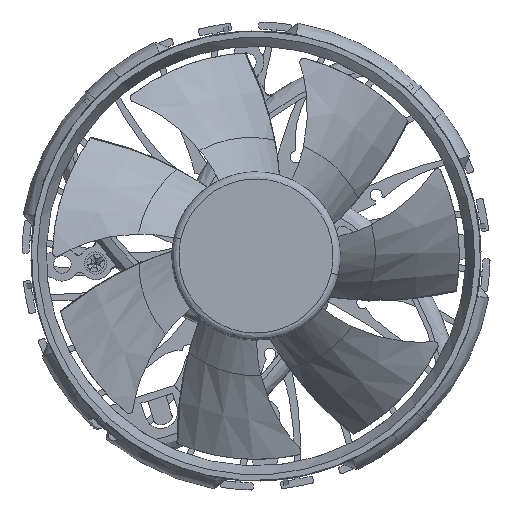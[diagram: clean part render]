
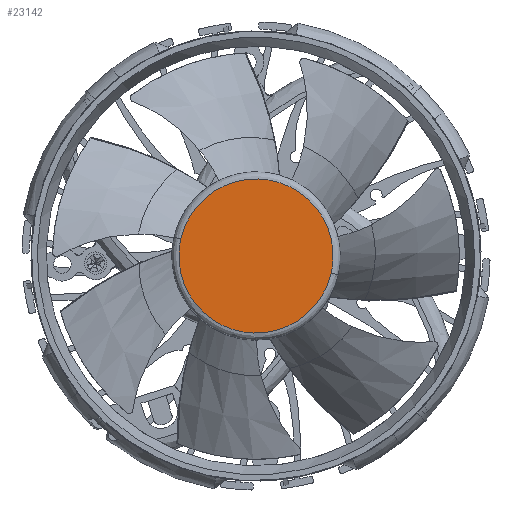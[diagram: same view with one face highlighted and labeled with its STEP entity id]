
A CAD part, front view. The second image highlights one B-rep face of the part: STEP entity #23142.
In plain terms, the highlighted planar face has unit normal (0, -1, 0) as drawn and (0, 1, 0) by its records, which use the part's own axes.
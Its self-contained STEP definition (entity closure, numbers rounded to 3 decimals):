
#7308 = PLANE ( 'NONE',  #33357 ) ;
#7309 = CARTESIAN_POINT ( 'NONE',  ( -16.496, 23.4, 16.496 ) ) ;
#7310 = DIRECTION ( 'NONE',  ( 0., -1., 0. ) ) ;
#7311 = DIRECTION ( 'NONE',  ( 0., 0., -1. ) ) ;
#8759 = LINE ( 'NONE', #8760, #40006 ) ;
#8760 = CARTESIAN_POINT ( 'NONE',  ( -16.3, 23.4, -0.111 ) ) ;
#8761 = DIRECTION ( 'NONE',  ( 0.003, 0., -1. ) ) ;
#8762 = CARTESIAN_POINT ( 'NONE',  ( -16.3, 23.4, -0.111 ) ) ;
#8763 = CARTESIAN_POINT ( 'NONE',  ( -16.235, 23.4, -9.659 ) ) ;
#8764 = CARTESIAN_POINT ( 'NONE',  ( -9.437, 23.4, -16.364 ) ) ;
#8765 = CARTESIAN_POINT ( 'NONE',  ( 0.111, 23.4, -16.3 ) ) ;
#8766 = CARTESIAN_POINT ( 'NONE',  ( 9.602, 23.4, -16.235 ) ) ;
#8767 = CARTESIAN_POINT ( 'NONE',  ( 16.3, 23.4, -9.502 ) ) ;
#8768 = CARTESIAN_POINT ( 'NONE',  ( 16.3, 23.4, 0. ) ) ;
#8769 = CARTESIAN_POINT ( 'NONE',  ( 16.3, 23.4, 0.111 ) ) ;
#8770 = CARTESIAN_POINT ( 'NONE',  ( 16.235, 23.4, 9.659 ) ) ;
#8771 = CARTESIAN_POINT ( 'NONE',  ( 9.437, 23.4, 16.364 ) ) ;
#8772 = CARTESIAN_POINT ( 'NONE',  ( -0.111, 23.4, 16.3 ) ) ;
#8773 = CARTESIAN_POINT ( 'NONE',  ( -9.602, 23.4, 16.235 ) ) ;
#8774 = CARTESIAN_POINT ( 'NONE',  ( -16.3, 23.4, 9.502 ) ) ;
#8775 = CARTESIAN_POINT ( 'NONE',  ( -16.3, 23.4, 0. ) ) ;
#8776 = LINE ( 'NONE', #8777, #40009 ) ;
#8777 = CARTESIAN_POINT ( 'NONE',  ( 16.3, 23.4, 0.111 ) ) ;
#8778 = DIRECTION ( 'NONE',  ( -0.003, 0., 1. ) ) ;
#15193 = ORIENTED_EDGE ( 'NONE', *, *, #22874, .F. ) ;
#15194 = ORIENTED_EDGE ( 'NONE', *, *, #22871, .F. ) ;
#15195 = ORIENTED_EDGE ( 'NONE', *, *, #22873, .F. ) ;
#15196 = ORIENTED_EDGE ( 'NONE', *, *, #22872, .F. ) ;
#22871 = EDGE_CURVE ( 'NONE', #39705, #39717, #8759, .T. ) ;
#22872 = EDGE_CURVE ( 'NONE', #39717, #39597, #32115, .T. ) ;
#22873 = EDGE_CURVE ( 'NONE', #39694, #39705, #32104, .T. ) ;
#22874 = EDGE_CURVE ( 'NONE', #39597, #39694, #8776, .T. ) ;
#23142 = ADVANCED_FACE ( 'NONE', ( #33366 ), #7308, .F. ) ;
#32104 =( BOUNDED_CURVE ( )  B_SPLINE_CURVE ( 3, ( #8769, #8770, #8771, #8772, #8773, #8774, #8775 ),
 .UNSPECIFIED., .F., .T. ) 
 B_SPLINE_CURVE_WITH_KNOTS ( ( 4, 3, 4 ),
 ( 0., 0.501, 1. ),
 .UNSPECIFIED. ) 
 CURVE ( )  GEOMETRIC_REPRESENTATION_ITEM ( )  RATIONAL_B_SPLINE_CURVE ( ( 1., 0.805, 0.805, 1., 0.806, 0.805, 0.997 ) ) 
 REPRESENTATION_ITEM ( '' )  );
#32115 =( BOUNDED_CURVE ( )  B_SPLINE_CURVE ( 3, ( #8762, #8763, #8764, #8765, #8766, #8767, #8768 ),
 .UNSPECIFIED., .F., .T. ) 
 B_SPLINE_CURVE_WITH_KNOTS ( ( 4, 3, 4 ),
 ( 0., 0.501, 1. ),
 .UNSPECIFIED. ) 
 CURVE ( )  GEOMETRIC_REPRESENTATION_ITEM ( )  RATIONAL_B_SPLINE_CURVE ( ( 1., 0.805, 0.805, 1., 0.806, 0.805, 0.997 ) ) 
 REPRESENTATION_ITEM ( '' )  );
#33357 = AXIS2_PLACEMENT_3D ( 'NONE', #7309, #7310, #7311 ) ;
#33366 = FACE_OUTER_BOUND ( 'NONE', #35920, .T. ) ;
#35920 = EDGE_LOOP ( 'NONE', ( #15196, #15194, #15195, #15193 ) ) ;
#38132 = CARTESIAN_POINT ( 'NONE',  ( 16.3, 23.4, 0. ) ) ;
#38229 = CARTESIAN_POINT ( 'NONE',  ( 16.3, 23.4, 0.111 ) ) ;
#38240 = CARTESIAN_POINT ( 'NONE',  ( -16.3, 23.4, 0. ) ) ;
#38252 = CARTESIAN_POINT ( 'NONE',  ( -16.3, 23.4, -0.111 ) ) ;
#39597 = VERTEX_POINT ( 'NONE', #38132 ) ;
#39694 = VERTEX_POINT ( 'NONE', #38229 ) ;
#39705 = VERTEX_POINT ( 'NONE', #38240 ) ;
#39717 = VERTEX_POINT ( 'NONE', #38252 ) ;
#40006 = VECTOR ( 'NONE', #8761, 1000. ) ;
#40009 = VECTOR ( 'NONE', #8778, 1000. ) ;
